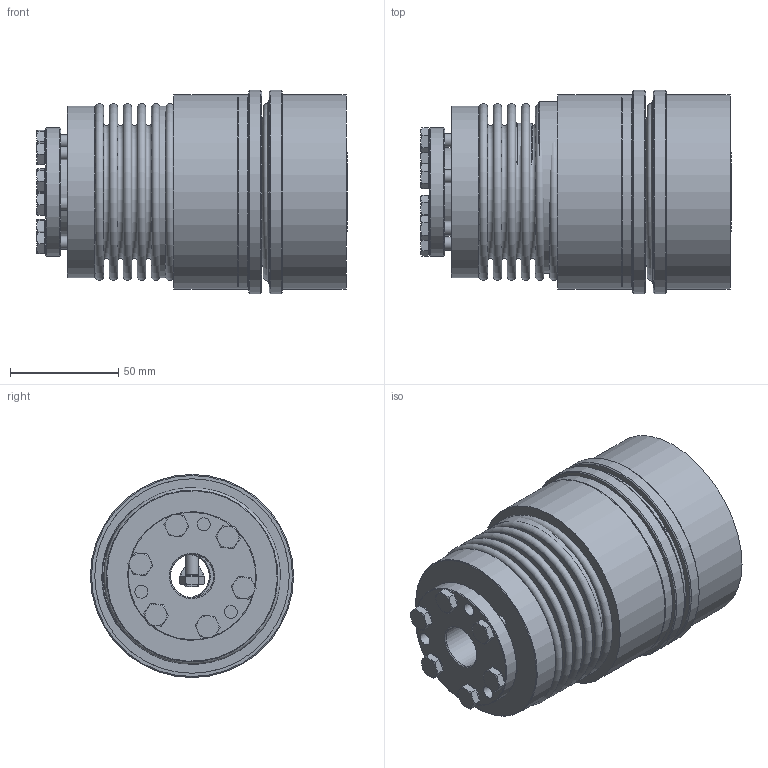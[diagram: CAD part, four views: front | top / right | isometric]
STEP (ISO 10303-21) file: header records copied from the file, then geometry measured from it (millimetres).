
FILE_DESCRIPTION( ( 'Unknown' ), '1' );
FILE_NAME( 'C:/Dokumente und Einstellungen/SKarpstein/Desktop/Korrigierte 3D Modelle/KBK-B-II/KBK-BII-115-128.stp', 'Unknown', ( 'Unknown' ), ( 'Unknown' ), 'XStep 1.0', 'Unknown', ' ' );
FILE_SCHEMA( ( 'automotive_design' ) );
Length unit declared in the file: millimetre
Products named in the file (12): Assem1; Assem2; Hex Screw GradeC_ISO_ISO 4018 - M6 x 25-WN_4; BA80-150_Standard_4; KB80-150_Standard_4; KBK L-I-80 Grundkörper_0; Konusbuchse 80_0; Stellring 80; Druckring 80; din_en_24017_m6x25; BL80-150_Standard_3; Flansch BI150
Bounding box: 143.55 x 94 x 94 mm (x, y, z)
Volume: 839236.2 mm3; surface area: 387735 mm2
Topology: 38 solids, 38 shells, 921 faces, 1920 edges, 1197 vertices
Faces by surface type: plane 432, cone 239, cylinder 192, torus 58
Full cylindrical faces by diameter (mm): 3.242 x6, 4.917 x18, 5 x8, 5.2 x6, 6 x47, 6.6 x30, 8.8 x7, 10 x13, 20 x3, 30 x4, 37.5 x2, 40 x4, 41 x5, 48 x2, 52 x2, 58 x3, 59.5 x5, 62 x4, 70 x2, 70.7 x4, 71.9 x4, 79.5 x3, 85 x2, 87 x2, 90 x4, 94 x2
Entity records: 6777 total; most frequent: CARTESIAN_POINT 1400, DIRECTION 1130, ORIENTED_EDGE 716, AXIS2_PLACEMENT_3D 534, EDGE_LOOP 504, EDGE_CURVE 358, FACE_OUTER_BOUND 350, VERTEX_POINT 304
